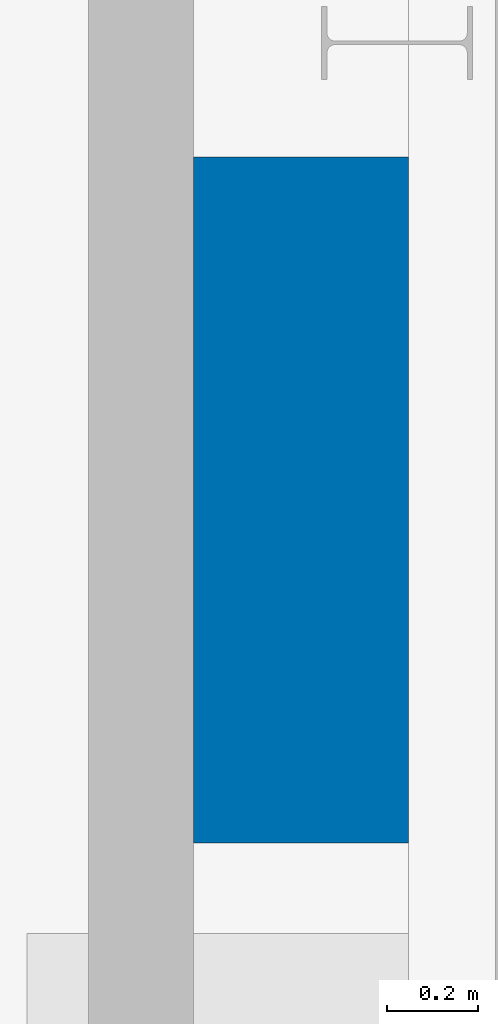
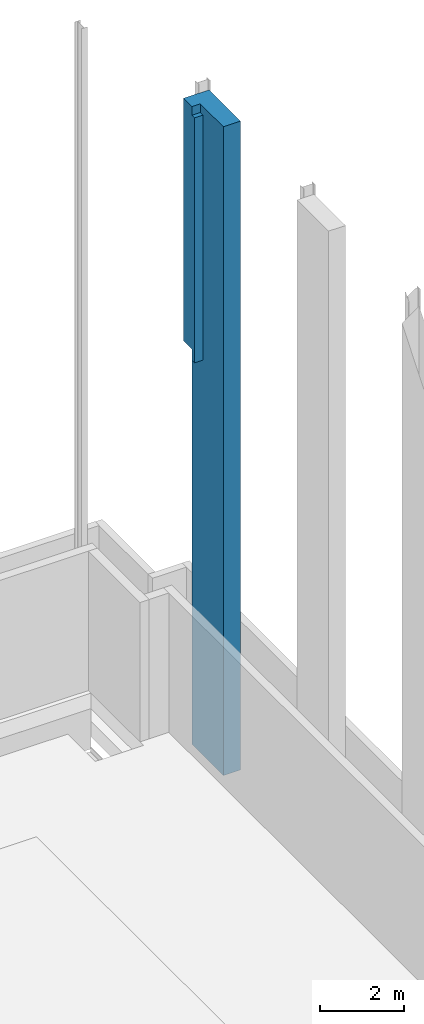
# One storey, part 29 of 34: 1 column.
"""IFC2X3 building model written with IfcOpenShell, lengths in millimetres."""

from ifc_helpers import new_model, entity, si_unit, converted_unit, derived_unit, direction, frame, origin, place, context, subcontext, project, spatial, faceted_brep, source, transform, mapped, material, type_object, type_shapes, element, save


model = new_model("IFC2X3")

# Units and contexts
model_context = context("Model", 3, precision=0.01, world=origin(), true_north=direction((6.12303176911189e-17, 1.0)))
body_context = subcontext(model_context, "Body", "Model", "MODEL_VIEW")
ifc_project = project(units=[si_unit("LENGTHUNIT", "METRE", prefix="MILLI"), si_unit("AREAUNIT", "SQUARE_METRE", prefix="MILLI"), si_unit("VOLUMEUNIT", "CUBIC_METRE"), converted_unit("PLANEANGLEUNIT", "DEGREE", entity("IfcRatioMeasure", 0.0174532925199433), si_unit("PLANEANGLEUNIT", "RADIAN"), dimensions=[0, 0, 0, 0, 0, 0, 0]), si_unit("MASSUNIT", "GRAM", prefix="KILO"), derived_unit("MASSDENSITYUNIT", [(si_unit("MASSUNIT", "GRAM", prefix="KILO"), 1), (si_unit("LENGTHUNIT", "METRE"), -3)]), derived_unit("MOMENTOFINERTIAUNIT", [(si_unit("LENGTHUNIT", "METRE"), 4)]), si_unit("TIMEUNIT", "SECOND"), si_unit("FREQUENCYUNIT", "HERTZ"), si_unit("THERMODYNAMICTEMPERATUREUNIT", "DEGREE_CELSIUS"), derived_unit("THERMALTRANSMITTANCEUNIT", [(si_unit("MASSUNIT", "GRAM", prefix="KILO"), 1), (si_unit("THERMODYNAMICTEMPERATUREUNIT", "KELVIN"), -1), (si_unit("TIMEUNIT", "SECOND"), -3)]), derived_unit("VOLUMETRICFLOWRATEUNIT", [(si_unit("LENGTHUNIT", "METRE"), 3), (si_unit("TIMEUNIT", "SECOND"), -1)]), si_unit("ELECTRICCURRENTUNIT", "AMPERE"), si_unit("ELECTRICVOLTAGEUNIT", "VOLT"), si_unit("POWERUNIT", "WATT"), si_unit("FORCEUNIT", "NEWTON", prefix="KILO"), si_unit("ILLUMINANCEUNIT", "LUX"), si_unit("LUMINOUSFLUXUNIT", "LUMEN"), si_unit("LUMINOUSINTENSITYUNIT", "CANDELA"), derived_unit("USERDEFINED", [(si_unit("MASSUNIT", "GRAM", prefix="KILO"), -1), (si_unit("LENGTHUNIT", "METRE"), -2), (si_unit("TIMEUNIT", "SECOND"), 3), (si_unit("LUMINOUSFLUXUNIT", "LUMEN"), 1)]), derived_unit("LINEARVELOCITYUNIT", [(si_unit("LENGTHUNIT", "METRE"), 1), (si_unit("TIMEUNIT", "SECOND"), -1)]), si_unit("PRESSUREUNIT", "PASCAL"), derived_unit("USERDEFINED", [(si_unit("LENGTHUNIT", "METRE"), -2), (si_unit("MASSUNIT", "GRAM", prefix="KILO"), 1), (si_unit("TIMEUNIT", "SECOND"), -2)]), derived_unit("LINEARFORCEUNIT", [(si_unit("MASSUNIT", "GRAM", prefix="KILO"), 1), (si_unit("LENGTHUNIT", "METRE"), 1), (si_unit("TIMEUNIT", "SECOND"), -2), (si_unit("LENGTHUNIT", "METRE"), -1)]), derived_unit("PLANARFORCEUNIT", [(si_unit("MASSUNIT", "GRAM", prefix="KILO"), 1), (si_unit("LENGTHUNIT", "METRE"), 1), (si_unit("TIMEUNIT", "SECOND"), -2), (si_unit("LENGTHUNIT", "METRE"), -2)])], contexts=[model_context])

# Site, building, storey
site_placement = place(None, origin())
site = spatial("IfcSite", under=ifc_project, at=site_placement, Name="Theater aan de Parade", CompositionType="ELEMENT")
building_placement = place(site_placement, origin())
building = spatial("IfcBuilding", under=site, at=building_placement, Name="Theater aan de Parade", CompositionType="ELEMENT")
storey_placement = place(building_placement, frame((0.0, 0.0, 3.49116848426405e-09)))
storey = spatial("IfcBuildingStorey", under=building, at=storey_placement, Name="00 begane grond", CompositionType="ELEMENT", Elevation=3.49116848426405e-09)

# Column
ifc_material = material(Name="00_PBT_MAT_beton t.p.g._C40/50")
column_type = type_object("IfcColumnType", Name="28_PBT_SC_beton_rechthoekig:C40/50_1500x700", PredefinedType="COLUMN", material=ifc_material)
shared_shape = source(origin(), body_context, "Body", "Brep", [
    faceted_brep([(700.0, 1500.0, 0.0), (700.0, 0.0, 0.0), (230.0, 0.0, 0.0), (230.0, 1500.0, 0.0), (700.0, 0.0, 18850.0), (700.0, 1500.0, 18850.0), (1.16083356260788e-09, 1500.0, 18850.0), (0.0, 1100.0, 18850.0), (230.0, 1100.0, 18850.0), (230.0, 0.0, 18850.0), (1.1435076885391e-09, 1500.0, 11800.0), (0.0, 1100.0, 11800.0), (0.0, 1100.0, 11480.0), (0.0, 975.0, 11480.0), (0.0, 975.0, 11510.0), (0.0, 975.0, 15475.0), (0.0, 975.0, 18600.0), (0.0, 1100.0, 18600.0), (230.0, 1500.0, 11800.0), (230.0, 1100.0, 11800.0), (230.0, 1100.0, 11480.0), (230.0, 1100.0, 18600.0), (230.0, 975.0, 18600.0), (230.0, 975.0, 15475.0), (230.0, 975.0, 11510.0), (230.0, 975.0, 11480.0)], [[[0, 1, 2, 3]], [[4, 5, 6, 7, 8, 9]], [[1, 4, 9, 2]], [[6, 10, 11, 12, 13, 14, 15, 16, 17, 7]], [[6, 5, 0, 3, 18, 10]], [[1, 0, 5, 4]], [[19, 11, 10, 18]], [[19, 20, 12, 11]], [[20, 19, 18, 3, 2, 9, 8, 21, 22, 23, 24, 25]], [[22, 21, 17, 16]], [[21, 8, 7, 17]], [[13, 25, 24, 23, 22, 16, 15, 14]], [[20, 25, 13, 12]]]),
])
type_shapes(column_type, [shared_shape])
column_placement = place(storey_placement, frame((87096.0, 44160.0, 880.0)))
element("IfcColumn", 1, at=column_placement, inside=storey, type_object=column_type, material=ifc_material, Name="28_PBT_SC_beton_rechthoekig:C40/50_1500x700", ObjectType="28_PBT_SC_beton_rechthoekig:C40/50_1500x700", context=body_context, shape_type="MappedRepresentation", body=[
    mapped(shared_shape, transform((0.0, 0.0, 0.0), scale=1.0)),
])

save(model, "model.ifc")
